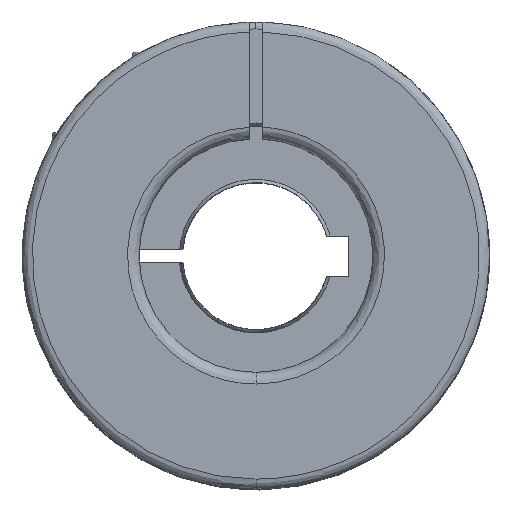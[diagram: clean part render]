
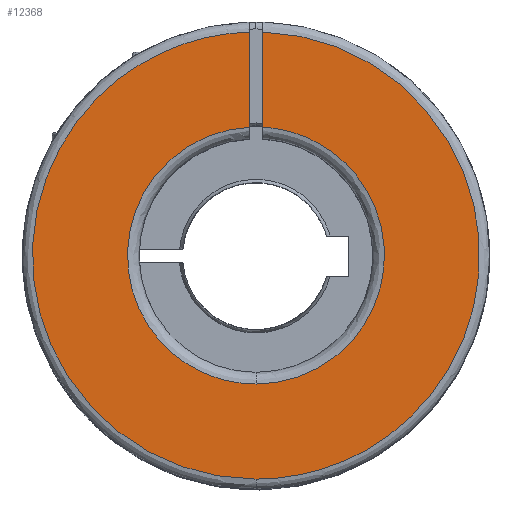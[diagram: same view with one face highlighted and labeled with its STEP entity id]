
A CAD part, top view. The second image highlights one B-rep face of the part: STEP entity #12368.
In plain terms, the highlighted planar face has unit normal (0, 0, 1).
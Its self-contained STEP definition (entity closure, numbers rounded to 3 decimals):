
#8165 = CARTESIAN_POINT ( 'NONE',  ( -0.172, 37.159, 62.541 ) ) ;
#8187 = CARTESIAN_POINT ( 'NONE',  ( -1.172, -29.826, 62.541 ) ) ;
#8188 = CARTESIAN_POINT ( 'NONE',  ( 63.879, -29.826, 62.541 ) ) ;
#8189 = CARTESIAN_POINT ( 'NONE',  ( 64.85, 35.217, 62.541 ) ) ;
#8190 = CARTESIAN_POINT ( 'NONE',  ( -0.172, 37.159, 62.541 ) ) ;
#8192 =( BOUNDED_CURVE ( )  B_SPLINE_CURVE ( 3, ( #8190, #8189, #8188, #8187 ),
 .UNSPECIFIED., .F., .T. ) 
 B_SPLINE_CURVE_WITH_KNOTS ( ( 4, 4 ),
 ( 0., 1. ),
 .UNSPECIFIED. ) 
 CURVE ( )  GEOMETRIC_REPRESENTATION_ITEM ( )  RATIONAL_B_SPLINE_CURVE ( ( 1., 0.343, 0.343, 1. ) ) 
 REPRESENTATION_ITEM ( '' )  );
#8241 = DIRECTION ( 'NONE',  ( 0., 1., 0. ) ) ;
#8242 = VECTOR ( 'NONE', #8241, 1000. ) ;
#8243 = CARTESIAN_POINT ( 'NONE',  ( -0.172, 3.674, 62.541 ) ) ;
#8244 = CARTESIAN_POINT ( 'NONE',  ( -2.172, 37.159, 62.541 ) ) ;
#8245 = CARTESIAN_POINT ( 'NONE',  ( -67.193, 35.217, 62.541 ) ) ;
#8246 = CARTESIAN_POINT ( 'NONE',  ( -66.222, -29.826, 62.541 ) ) ;
#8247 = CARTESIAN_POINT ( 'NONE',  ( -1.172, -29.826, 62.541 ) ) ;
#8248 =( BOUNDED_CURVE ( )  B_SPLINE_CURVE ( 3, ( #8247, #8246, #8245, #8244 ),
 .UNSPECIFIED., .F., .T. ) 
 B_SPLINE_CURVE_WITH_KNOTS ( ( 4, 4 ),
 ( 0., 1. ),
 .UNSPECIFIED. ) 
 CURVE ( )  GEOMETRIC_REPRESENTATION_ITEM ( )  RATIONAL_B_SPLINE_CURVE ( ( 1., 0.343, 0.343, 1. ) ) 
 REPRESENTATION_ITEM ( '' )  );
#8249 = LINE ( 'NONE', #8243, #8242 ) ;
#8250 = CARTESIAN_POINT ( 'NONE',  ( -1.172, -29.826, 62.541 ) ) ;
#8273 = CARTESIAN_POINT ( 'NONE',  ( -0.172, 22.898, 62.541 ) ) ;
#9440 = CARTESIAN_POINT ( 'NONE',  ( -1.172, -15.576, 62.541 ) ) ;
#9448 = CARTESIAN_POINT ( 'NONE',  ( -1.172, -15.576, 62.541 ) ) ;
#9449 = CARTESIAN_POINT ( 'NONE',  ( -37.757, -15.576, 62.541 ) ) ;
#9450 = CARTESIAN_POINT ( 'NONE',  ( -38.708, 20.998, 62.541 ) ) ;
#9451 = CARTESIAN_POINT ( 'NONE',  ( -2.172, 22.898, 62.541 ) ) ;
#9452 =( BOUNDED_CURVE ( )  B_SPLINE_CURVE ( 3, ( #9451, #9450, #9449, #9448 ),
 .UNSPECIFIED., .F., .F. ) 
 B_SPLINE_CURVE_WITH_KNOTS ( ( 4, 4 ),
 ( 0., 1. ),
 .UNSPECIFIED. ) 
 CURVE ( )  GEOMETRIC_REPRESENTATION_ITEM ( )  RATIONAL_B_SPLINE_CURVE ( ( 1., 0.351, 0.351, 1. ) ) 
 REPRESENTATION_ITEM ( '' )  );
#9538 =( BOUNDED_CURVE ( )  B_SPLINE_CURVE ( 3, ( #9574, #9573, #9572, #9571 ),
 .UNSPECIFIED., .F., .T. ) 
 B_SPLINE_CURVE_WITH_KNOTS ( ( 4, 4 ),
 ( 0., 1. ),
 .UNSPECIFIED. ) 
 CURVE ( )  GEOMETRIC_REPRESENTATION_ITEM ( )  RATIONAL_B_SPLINE_CURVE ( ( 1., 0.351, 0.351, 1. ) ) 
 REPRESENTATION_ITEM ( '' )  );
#9571 = CARTESIAN_POINT ( 'NONE',  ( -0.172, 22.898, 62.541 ) ) ;
#9572 = CARTESIAN_POINT ( 'NONE',  ( 36.365, 20.998, 62.541 ) ) ;
#9573 = CARTESIAN_POINT ( 'NONE',  ( 35.414, -15.576, 62.541 ) ) ;
#9574 = CARTESIAN_POINT ( 'NONE',  ( -1.172, -15.576, 62.541 ) ) ;
#9577 = DIRECTION ( 'NONE',  ( 0., 1., 0. ) ) ;
#9578 = DIRECTION ( 'NONE',  ( 0., 0., -1. ) ) ;
#9579 = CARTESIAN_POINT ( 'NONE',  ( -1.172, 3.674, 62.541 ) ) ;
#9580 = AXIS2_PLACEMENT_3D ( 'NONE', #9579, #9578, #9577 ) ;
#9581 = PLANE ( 'NONE',  #9580 ) ;
#9583 = FACE_OUTER_BOUND ( 'NONE', #12361, .T. ) ;
#11680 = CARTESIAN_POINT ( 'NONE',  ( -2.172, 22.898, 62.541 ) ) ;
#11707 = CARTESIAN_POINT ( 'NONE',  ( -2.172, 37.159, 62.541 ) ) ;
#11708 = DIRECTION ( 'NONE',  ( 0., -1., 0. ) ) ;
#11709 = VECTOR ( 'NONE', #11708, 1000. ) ;
#11710 = CARTESIAN_POINT ( 'NONE',  ( -2.172, 3.674, 62.541 ) ) ;
#11714 = LINE ( 'NONE', #11710, #11709 ) ;
#11956 = VERTEX_POINT ( 'NONE', #8165 ) ;
#11960 = EDGE_CURVE ( 'NONE', #11956, #11972, #8192, .T. ) ;
#11971 = EDGE_CURVE ( 'NONE', #11972, #13025, #8248, .T. ) ;
#11972 = VERTEX_POINT ( 'NONE', #8250 ) ;
#11975 = EDGE_CURVE ( 'NONE', #11980, #11956, #8249, .T. ) ;
#11980 = VERTEX_POINT ( 'NONE', #8273 ) ;
#12314 = EDGE_CURVE ( 'NONE', #13003, #12320, #9452, .T. ) ;
#12320 = VERTEX_POINT ( 'NONE', #9440 ) ;
#12349 = ORIENTED_EDGE ( 'NONE', *, *, #13018, .F. ) ;
#12351 = ORIENTED_EDGE ( 'NONE', *, *, #12314, .F. ) ;
#12353 = EDGE_CURVE ( 'NONE', #12320, #11980, #9538, .T. ) ;
#12354 = ORIENTED_EDGE ( 'NONE', *, *, #11960, .F. ) ;
#12356 = ORIENTED_EDGE ( 'NONE', *, *, #11971, .F. ) ;
#12361 = EDGE_LOOP ( 'NONE', ( #12356, #12354, #12366, #12367, #12351, #12349 ) ) ;
#12366 = ORIENTED_EDGE ( 'NONE', *, *, #11975, .F. ) ;
#12367 = ORIENTED_EDGE ( 'NONE', *, *, #12353, .F. ) ;
#12368 = ADVANCED_FACE ( 'NONE', ( #9583 ), #9581, .F. ) ;
#13003 = VERTEX_POINT ( 'NONE', #11680 ) ;
#13018 = EDGE_CURVE ( 'NONE', #13025, #13003, #11714, .T. ) ;
#13025 = VERTEX_POINT ( 'NONE', #11707 ) ;
